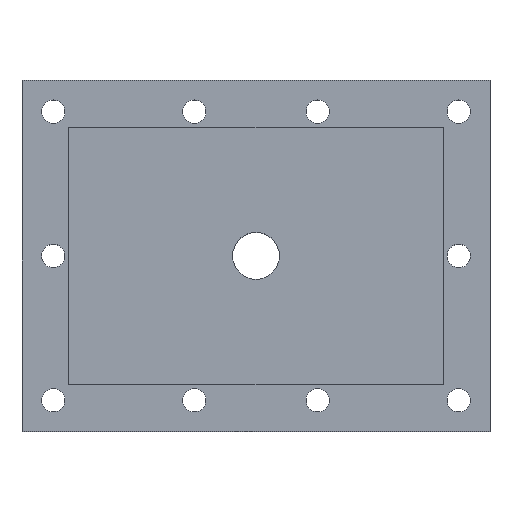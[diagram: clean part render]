
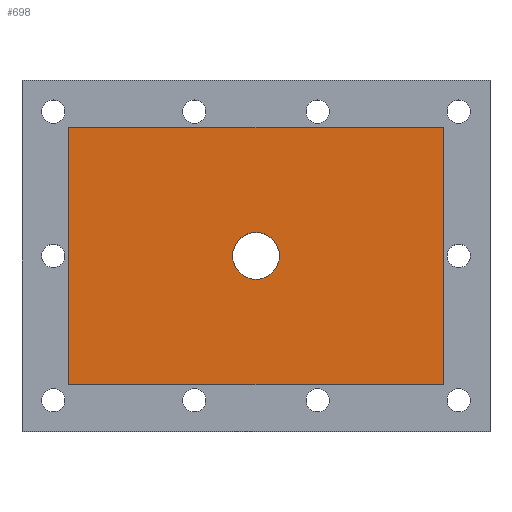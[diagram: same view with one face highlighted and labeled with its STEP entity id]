
A CAD part, top view. The second image highlights one B-rep face of the part: STEP entity #698.
In plain terms, the highlighted planar face has unit normal (0, 0, 1).
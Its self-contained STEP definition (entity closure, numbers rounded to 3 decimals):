
#35=LINE('',#1153,#80);
#39=LINE('',#1161,#84);
#42=LINE('',#1167,#87);
#45=LINE('',#1172,#90);
#80=VECTOR('',#968,10.);
#84=VECTOR('',#974,10.);
#87=VECTOR('',#979,10.);
#90=VECTOR('',#984,10.);
#147=FACE_BOUND('',#263,.T.);
#199=FACE_OUTER_BOUND('',#262,.T.);
#262=EDGE_LOOP('',(#617,#618,#619,#620));
#263=EDGE_LOOP('',(#621));
#316=CIRCLE('',#798,6.);
#358=VERTEX_POINT('',#1151);
#359=VERTEX_POINT('',#1152);
#362=VERTEX_POINT('',#1160);
#364=VERTEX_POINT('',#1166);
#373=VERTEX_POINT('',#1194);
#436=EDGE_CURVE('',#358,#359,#35,.T.);
#440=EDGE_CURVE('',#362,#358,#39,.T.);
#443=EDGE_CURVE('',#364,#362,#42,.T.);
#446=EDGE_CURVE('',#359,#364,#45,.T.);
#457=EDGE_CURVE('',#373,#373,#316,.T.);
#617=ORIENTED_EDGE('',*,*,#436,.T.);
#618=ORIENTED_EDGE('',*,*,#446,.T.);
#619=ORIENTED_EDGE('',*,*,#443,.T.);
#620=ORIENTED_EDGE('',*,*,#440,.T.);
#621=ORIENTED_EDGE('',*,*,#457,.T.);
#656=PLANE('',#802);
#698=ADVANCED_FACE('',(#199,#147),#656,.T.);
#798=AXIS2_PLACEMENT_3D('',#1195,#1003,#1004);
#802=AXIS2_PLACEMENT_3D('',#1205,#1015,#1016);
#968=DIRECTION('',(0.,-1.,0.));
#974=DIRECTION('',(-1.,0.,0.));
#979=DIRECTION('',(0.,1.,0.));
#984=DIRECTION('',(1.,0.,0.));
#1003=DIRECTION('center_axis',(0.,0.,-1.));
#1004=DIRECTION('ref_axis',(-1.,0.,0.));
#1015=DIRECTION('center_axis',(0.,0.,1.));
#1016=DIRECTION('ref_axis',(1.,0.,0.));
#1151=CARTESIAN_POINT('',(-48.,33.,14.));
#1152=CARTESIAN_POINT('',(-48.,-33.,14.));
#1153=CARTESIAN_POINT('',(-48.,16.5,14.));
#1160=CARTESIAN_POINT('',(48.,33.,14.));
#1161=CARTESIAN_POINT('',(24.,33.,14.));
#1166=CARTESIAN_POINT('',(48.,-33.,14.));
#1167=CARTESIAN_POINT('',(48.,-16.5,14.));
#1172=CARTESIAN_POINT('',(-24.,-33.,14.));
#1194=CARTESIAN_POINT('',(6.,0.,14.));
#1195=CARTESIAN_POINT('Origin',(0.,0.,14.));
#1205=CARTESIAN_POINT('Origin',(0.,0.,14.));
